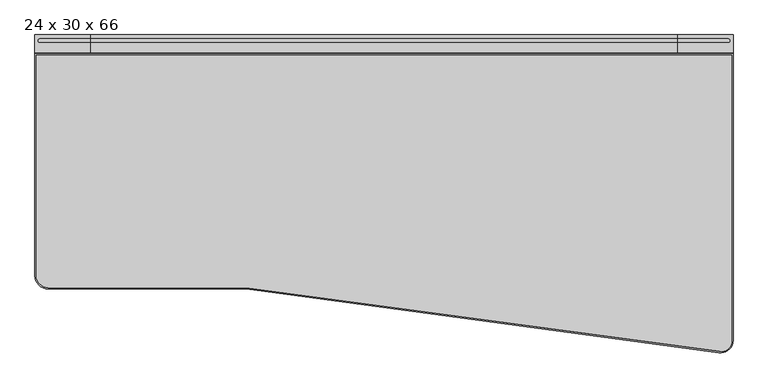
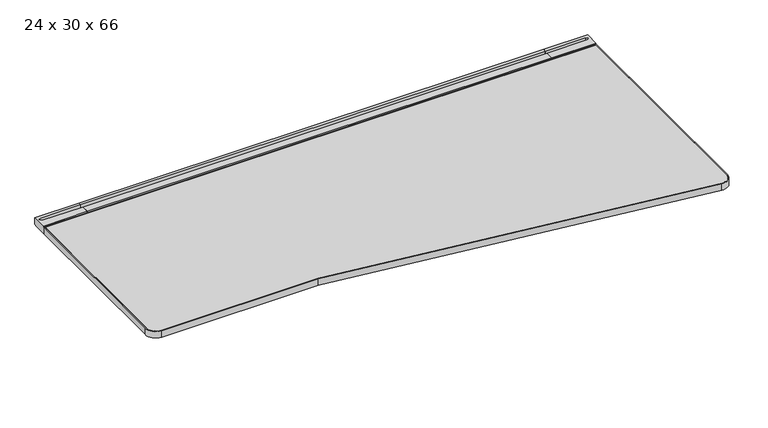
"""IFC4 building model written with IfcOpenShell, lengths in millimetres: furniture geometry, Steelcase - C Scape - Desking - Right Hand Transition : 24 x 30 x 66."""

from ifc_helpers import new_model, si_unit, point, frame, frame_2d, origin, place, context, project, spatial, polyline, circle_curve, trimmed, segment, composite_curve, outline, extrude, faceted_brep, source, transform, mapped, element, save
from ifc_brep_helpers import plane_surface, cylinder_surface, revolved_surface, advanced_brep


def furniture_24_x_30_x_66_a961efd6(model_context):
    return source(origin(), model_context, "Body", "SolidModel", [
        advanced_brep(
        [(1541.7927124, -45.3135132, 703.3768), (1541.7927124, -45.3135132, 722.4268341), (1541.7927124, -42.7750923, 722.4268341), (1541.7927124, -42.7750923, 725.932), (1541.7927124, -19.3290527, 725.932), (1541.7927124, -19.3290527, 713.486), (1541.7927124, -8.5111084, 713.486), (1541.7927124, -8.5111084, 725.932), (1541.7927124, 0.0, 725.932), (1541.7927124, 0.0, 705.1038636), (1541.7927124, -3.2278472, 705.1038636), (1541.7927124, -4.0331902, 703.3768), (1674.8125, -45.3135132, 703.3768), (1674.8125, -4.0331902, 703.3768), (1674.8125, -3.2278472, 705.1038636), (1674.8125, 0.0, 705.1038636), (1674.8125, 0.0, 725.932), (1674.8125, -42.7750923, 725.932), (1674.8125, -42.7750923, 722.4268341), (1674.8125, -45.3135132, 722.4268341), (1663.0504272, -8.5111084, 725.932), (1663.0504272, -19.3290527, 725.932), (1663.0504272, -19.3290527, 713.486), (1663.0504272, -8.5111084, 713.486)],
        [
            (0, 1),
            (1, 2),
            (2, 3),
            (3, 4),
            (4, 5),
            (5, 6),
            (6, 7),
            (7, 8),
            (8, 9),
            (9, 10),
            (10, 11),
            (11, 0),
            (12, 13),
            (13, 14),
            (14, 15),
            (15, 16),
            (16, 17),
            (17, 18),
            (18, 19),
            (19, 12),
            (11, 13),
            (12, 0),
            (10, 14),
            (9, 15),
            (8, 16),
            (7, 20),
            (20, 21, circle_curve(frame((1663.0504272, -13.9200806, 725.932), z_axis=(0.0, 0.0, -1.0), x_axis=(-1.0, 0.0, 0.0)), 5.4089722)),
            (21, 4),
            (3, 17),
            (2, 18),
            (1, 19),
            (5, 22),
            (22, 23, circle_curve(frame((1663.0504272, -13.9200806, 713.486), z_axis=(0.0, 0.0, 1.0), x_axis=(-1.0, 0.0, 0.0)), 5.4089722)),
            (23, 6),
            (23, 20),
            (22, 21),
        ],
        [
            plane_surface(frame((1541.7927124, -45.3135132, 703.3768), z_axis=(-1.0, 0.0, 0.0), x_axis=(0.0, 1.0, 0.0))),
            plane_surface(frame((1674.8125, -45.3135132, 703.3768), z_axis=(1.0, 0.0, 0.0), x_axis=(0.0, -1.0, 0.0))),
            plane_surface(frame((1541.7927124, -45.3135132, 703.3768), z_axis=(0.0, 0.0, -1.0), x_axis=(1.0, 0.0, 0.0))),
            plane_surface(frame((1541.7927124, -4.0331902, 703.3768), z_axis=(0.0, 0.9063077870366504, -0.4226182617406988), x_axis=(1.0, 0.0, 0.0))),
            plane_surface(frame((1541.7927124, -3.2278472, 705.1038636), z_axis=(0.0, 0.0, -1.0), x_axis=(1.0, 0.0, 0.0))),
            plane_surface(frame((1541.7927124, 0.0, 705.1038636), z_axis=(0.0, 1.0, 0.0), x_axis=(1.0, 0.0, 0.0))),
            plane_surface(frame((1541.7927124, 0.0, 725.932), z_axis=(0.0, 0.0, 1.0), x_axis=(1.0, 0.0, 0.0))),
            plane_surface(frame((1541.7927124, -42.7750923, 725.932), z_axis=(0.0, -1.0, 0.0), x_axis=(1.0, 0.0, 0.0))),
            plane_surface(frame((1541.7927124, -42.7750923, 722.4268341), z_axis=(0.0, 0.0, 1.0), x_axis=(1.0, 0.0, 0.0))),
            plane_surface(frame((1541.7927124, -45.3135132, 722.4268341), z_axis=(0.0, -1.0, 0.0), x_axis=(1.0, 0.0, 0.0))),
            plane_surface(frame((1663.0504272, -8.5111084, 713.486), z_axis=(0.0, 0.0, 1.0), x_axis=(-1.0, 0.0, 0.0))),
            plane_surface(frame((1541.7927124, -8.5111084, 731.2180541), z_axis=(0.0, -1.0, 0.0), x_axis=(0.0, 0.0, -1.0))),
            revolved_surface(polyline([(1657.641455, -13.9200806, 725.932), (1657.641455, -13.9200806, 713.486)]), (1663.0504272, -13.9200806, 713.486), (0.0, 0.0, 1.0)),
            plane_surface(frame((1663.0504272, -19.3290527, 731.2180541), z_axis=(0.0, 1.0, 0.0), x_axis=(0.0, 0.0, -1.0))),
        ],
        [
            (0, [[1, 2, 3, 4, 5, 6, 7, 8, 9, 10, 11, 12]]),
            (1, [[13, 14, 15, 16, 17, 18, 19, 20]]),
            (2, [[21, -13, 22, -12]]),
            (3, [[23, -14, -21, -11]]),
            (4, [[24, -15, -23, -10]]),
            (5, [[25, -16, -24, -9]]),
            (6, [[-25, -8, 26, 27, 28, -4, 29, -17]]),
            (7, [[30, -18, -29, -3]]),
            (8, [[31, -19, -30, -2]]),
            (9, [[-22, -20, -31, -1]]),
            (10, [[-6, 32, 33, 34]]),
            (11, [[35, -26, -7, -34]]),
            (12, [[36, -27, -35, -33]]),
            (13, [[-5, -28, -36, -32]]),
        ],
    ),
        faceted_brep([(1655.7617368, -565.0752923, 700.7093833), (1655.7617368, -565.0752923, 703.3768), (1541.7927124, -565.0752923, 703.3768), (1541.7927124, -565.0752923, 679.3263935), (1557.4268699, -565.0752923, 679.3263935), (1560.0474121, -565.0752923, 693.4200291), (1641.4866272, -565.0752923, 693.4200291), (1655.7617368, -4.0331902, 700.7093833), (1641.4866272, -4.0331902, 693.4200291), (1560.0474121, -4.0331902, 693.4200291), (1548.1411653, -4.0331902, 629.3866), (1541.7927124, -4.0331902, 629.3866), (1541.7927124, -4.0331902, 703.3768), (1655.7617368, -4.0331902, 703.3768), (1555.2615949, -376.5599397, 667.6812472), (1548.1411653, -364.1172546, 629.3866), (1541.7927124, -364.1172546, 629.3866), (1541.7927124, -376.5599397, 667.6812472)], [[[0, 1, 2, 3, 4, 5, 6]], [[7, 8, 9, 10, 11, 12, 13]], [[6, 8, 7, 0]], [[5, 9, 8, 6]], [[9, 5, 4, 14, 15, 10]], [[10, 15, 16, 11]], [[11, 16, 17, 3, 2, 12]], [[1, 13, 12, 2]], [[0, 7, 13, 1]], [[14, 4, 3, 17]], [[17, 16, 15, 14]]]),
        extrude(outline(composite_curve([segment(polyline([(-293.5216187, 657.3775839), (-559.0022133, 680.1371551)]), True, "CONTINUOUS"), segment(trimmed(circle_curve(frame_2d((-558.7581271, 682.9843154)), 2.8576039), [point((-559.0022133, 680.1371551))], [point((-561.5383043, 682.3236226))], False, "CARTESIAN"), True, "CONTINUOUS"), segment(polyline([(-561.5383043, 682.3236226), (-566.0887542, 701.4717905), (-557.8334441, 701.4717905), (-557.8334441, 703.3768), (-442.6683806, 703.3768), (-442.6683806, 696.3917953), (-318.2108611, 696.3917953), (-318.2108611, 703.3768), (-293.5216187, 703.3768), (-293.5216187, 657.3775839)]), True, "CONTINUOUS")], self_intersect=False)), frame((801.624, 0.0, 0.0), z_axis=(1.0, 0.0, 0.0), x_axis=(0.0, 1.0, 0.0)), (0.0, 0.0, 1.0), 73.152),
        advanced_brep(
        [(134.6072876, -45.3135132, 703.3768), (134.6072876, -4.0331902, 703.3768), (134.6072876, -3.2278472, 705.1038636), (134.6072876, 0.0, 705.1038636), (134.6072876, 0.0, 725.932), (134.6072876, -8.5111084, 725.932), (134.6072876, -8.5111084, 713.486), (134.6072876, -19.3290527, 713.486), (134.6072876, -19.3290527, 725.932), (134.6072876, -42.7750923, 725.932), (134.6072876, -42.7750923, 722.4268341), (134.6072876, -45.3135132, 722.4268341), (1.5875, -45.3135132, 703.3768), (1.5875, -45.3135132, 722.4268341), (1.5875, -42.7750923, 722.4268341), (1.5875, -42.7750923, 725.932), (1.5875, 0.0, 725.932), (1.5875, 0.0, 705.1038636), (1.5875, -3.2278472, 705.1038636), (1.5875, -4.0331902, 703.3768), (13.3495728, -19.3290527, 725.932), (13.3495728, -8.5111084, 725.932), (13.3495728, -8.5111084, 713.486), (13.3495728, -19.3290527, 713.486)],
        [
            (0, 1),
            (1, 2),
            (2, 3),
            (3, 4),
            (4, 5),
            (5, 6),
            (6, 7),
            (7, 8),
            (8, 9),
            (9, 10),
            (10, 11),
            (11, 0),
            (12, 13),
            (13, 14),
            (14, 15),
            (15, 16),
            (16, 17),
            (17, 18),
            (18, 19),
            (19, 12),
            (0, 12),
            (19, 1),
            (18, 2),
            (17, 3),
            (16, 4),
            (15, 9),
            (8, 20),
            (20, 21, circle_curve(frame((13.3495728, -13.9200806, 725.932), z_axis=(0.0, 0.0, -1.0), x_axis=(1.0, 0.0, 0.0)), 5.4089722)),
            (21, 5),
            (14, 10),
            (13, 11),
            (6, 22),
            (22, 23, circle_curve(frame((13.3495728, -13.9200806, 713.486), z_axis=(0.0, 0.0, 1.0), x_axis=(1.0, 0.0, 0.0)), 5.4089722)),
            (23, 7),
            (21, 22),
            (20, 23),
        ],
        [
            plane_surface(frame((134.6072876, -45.3135132, 703.3768), z_axis=(1.0, 0.0, 0.0), x_axis=(0.0, 1.0, 0.0))),
            plane_surface(frame((1.5875, -45.3135132, 703.3768), z_axis=(-1.0, 0.0, 0.0), x_axis=(0.0, -1.0, 0.0))),
            plane_surface(frame((134.6072876, -45.3135132, 703.3768), z_axis=(0.0, 0.0, -1.0), x_axis=(-1.0, 0.0, 0.0))),
            plane_surface(frame((134.6072876, -4.0331902, 703.3768), z_axis=(0.0, 0.9063077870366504, -0.4226182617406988), x_axis=(-1.0, 0.0, 0.0))),
            plane_surface(frame((134.6072876, -3.2278472, 705.1038636), z_axis=(0.0, 0.0, -1.0), x_axis=(-1.0, 0.0, 0.0))),
            plane_surface(frame((134.6072876, 0.0, 705.1038636), z_axis=(0.0, 1.0, 0.0), x_axis=(-1.0, 0.0, 0.0))),
            plane_surface(frame((134.6072876, 0.0, 725.932), z_axis=(0.0, 0.0, 1.0), x_axis=(-1.0, 0.0, 0.0))),
            plane_surface(frame((134.6072876, -42.7750923, 725.932), z_axis=(0.0, -1.0, 0.0), x_axis=(-1.0, 0.0, 0.0))),
            plane_surface(frame((134.6072876, -42.7750923, 722.4268341), z_axis=(0.0, 0.0, 1.0), x_axis=(-1.0, 0.0, 0.0))),
            plane_surface(frame((134.6072876, -45.3135132, 722.4268341), z_axis=(0.0, -1.0, 0.0), x_axis=(-1.0, 0.0, 0.0))),
            plane_surface(frame((13.3495728, -8.5111084, 713.486), z_axis=(0.0, 0.0, 1.0), x_axis=(1.0, 0.0, 0.0))),
            plane_surface(frame((134.6072876, -8.5111084, 731.2180541), z_axis=(0.0, -1.0, 0.0), x_axis=(0.0, 0.0, -1.0))),
            revolved_surface(polyline([(18.758545, -13.9200806, 725.932), (18.758545, -13.9200806, 713.486)]), (13.3495728, -13.9200806, 713.486), (0.0, 0.0, 1.0)),
            plane_surface(frame((13.3495728, -19.3290527, 731.2180541), z_axis=(0.0, 1.0, 0.0), x_axis=(0.0, 0.0, -1.0))),
        ],
        [
            (0, [[1, 2, 3, 4, 5, 6, 7, 8, 9, 10, 11, 12]]),
            (1, [[13, 14, 15, 16, 17, 18, 19, 20]]),
            (2, [[-1, 21, -20, 22]]),
            (3, [[-2, -22, -19, 23]]),
            (4, [[-3, -23, -18, 24]]),
            (5, [[-4, -24, -17, 25]]),
            (6, [[-16, 26, -9, 27, 28, 29, -5, -25]]),
            (7, [[-10, -26, -15, 30]]),
            (8, [[-11, -30, -14, 31]]),
            (9, [[-12, -31, -13, -21]]),
            (10, [[32, 33, 34, -7]]),
            (11, [[-32, -6, -29, 35]]),
            (12, [[-33, -35, -28, 36]]),
            (13, [[-34, -36, -27, -8]]),
        ],
    ),
        faceted_brep([(20.6382632, -565.0752923, 700.7093833), (34.9133728, -565.0752923, 693.4200291), (116.3525879, -565.0752923, 693.4200291), (118.9731301, -565.0752923, 679.3263935), (134.6072876, -565.0752923, 679.3263935), (134.6072876, -565.0752923, 703.3768), (20.6382632, -565.0752923, 703.3768), (20.6382632, -4.0331902, 700.7093833), (20.6382632, -4.0331902, 703.3768), (134.6072876, -4.0331902, 703.3768), (134.6072876, -4.0331902, 629.3866), (128.2588347, -4.0331902, 629.3866), (116.3525879, -4.0331902, 693.4200291), (34.9133728, -4.0331902, 693.4200291), (128.2588347, -364.1172546, 629.3866), (121.1384051, -376.5599397, 667.6812472), (134.6072876, -364.1172546, 629.3866), (134.6072876, -376.5599397, 667.6812472)], [[[0, 1, 2, 3, 4, 5, 6]], [[7, 8, 9, 10, 11, 12, 13]], [[1, 0, 7, 13]], [[2, 1, 13, 12]], [[12, 11, 14, 15, 3, 2]], [[11, 10, 16, 14]], [[10, 9, 5, 4, 17, 16]], [[6, 5, 9, 8]], [[0, 6, 8, 7]], [[15, 17, 4, 3]], [[17, 15, 14, 16]]]),
        extrude(outline(polyline([(-8.5111084, 725.932), (0.0, 725.932), (0.0, 705.1038636), (-3.2278472, 705.1038636), (-4.0331902, 703.3768), (-45.3135132, 703.3768), (-45.3135132, 722.4268341), (-42.7750923, 722.4268341), (-42.7750923, 725.932), (-19.3290527, 725.932), (-19.3290527, 713.486), (-8.5111084, 713.486), (-8.5111084, 725.932)])), frame((134.6072876, 0.0, 0.0), z_axis=(1.0, 0.0, 0.0), x_axis=(0.0, 1.0, 0.0)), (0.0, 0.0, 1.0), 1407.1854248),
        extrude(outline(polyline([(134.6072876, -293.5216187), (134.6072876, -4.0331902), (1541.7927124, -4.0331902), (1541.7927124, -293.5216187), (134.6072876, -293.5216187)])), frame((0.0, 0.0, 629.3866), z_axis=(0.0, 0.0, 1.0), x_axis=(1.0, 0.0, 0.0)), (0.0, 0.0, 1.0), 73.9902),
        advanced_brep(
        [(4.6355, -48.3660689, 723.9), (4.6355, -577.85, 723.9), (33.3375, -606.5490234, 723.9), (508.0002405, -606.5490234, 723.9), (1642.4488255, -759.7737122, 723.9), (1671.7645, -734.677348, 723.9), (1671.7645, -48.3660689, 723.9), (4.6355, -48.3660689, 703.3768), (1671.7645, -48.3660689, 703.3768), (1671.7645, -734.677348, 703.3768), (1642.4488255, -759.7737122, 703.3768), (508.0002405, -606.5490234, 703.3768), (33.3375, -606.5490234, 703.3768), (4.6384766, -577.85, 703.3768)],
        [
            (0, 1),
            (1, 2, circle_curve(frame((33.3375, -577.85, 723.9), z_axis=(0.0, 0.0, 1.0), x_axis=(1.0, 0.0, 0.0)), 28.6990234)),
            (2, 3),
            (3, 4),
            (4, 5, circle_curve(frame((1646.3645, -734.677348, 723.9), z_axis=(0.0, 0.0, 1.0), x_axis=(1.0, 0.0, 0.0)), 25.4)),
            (5, 6),
            (6, 0),
            (7, 8),
            (8, 9),
            (9, 10, circle_curve(frame((1646.3645, -734.677348, 703.3768), z_axis=(0.0, 0.0, -1.0), x_axis=(1.0, 0.0, 0.0)), 25.4)),
            (10, 11),
            (11, 12),
            (12, 13, circle_curve(frame((33.3375, -577.85, 703.3768), z_axis=(0.0, 0.0, -1.0), x_axis=(1.0, 0.0, 0.0)), 28.6990234)),
            (13, 7),
            (0, 7),
            (13, 1),
            (12, 2),
            (11, 3),
            (10, 4),
            (9, 5),
            (8, 6),
        ],
        [
            plane_surface(frame((4.6355, -48.3660689, 723.9), z_axis=(0.0, 0.0, 1.0), x_axis=(0.0, -1.0, 0.0))),
            plane_surface(frame((4.6355, -48.3660689, 703.3768), z_axis=(0.0, 0.0, -1.0), x_axis=(0.0, 1.0, 0.0))),
            plane_surface(frame((4.6355, -48.3660689, 723.9), z_axis=(-1.0, 0.0, 0.0), x_axis=(0.0, 0.0, -1.0))),
            cylinder_surface(frame((33.3375, -577.85, 703.3768), z_axis=(0.0, 0.0, 1.0), x_axis=(1.0, 0.0, 0.0)), 28.6990234),
            plane_surface(frame((33.3375, -606.5490234, 723.9), z_axis=(0.0, -1.0, 0.0), x_axis=(0.0, 0.0, -1.0))),
            plane_surface(frame((508.0002405, -606.5490234, 723.9), z_axis=(-0.13384997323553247, -0.9910016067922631, 0.0), x_axis=(0.0, 0.0, -1.0))),
            cylinder_surface(frame((1646.3645, -734.677348, 703.3768), z_axis=(0.0, 0.0, 1.0), x_axis=(1.0, 0.0, 0.0)), 25.4),
            plane_surface(frame((1671.7645, -734.677348, 723.9), z_axis=(1.0, 0.0, 0.0), x_axis=(0.0, 0.0, -1.0))),
            plane_surface(frame((1671.7645, -48.3660689, 723.9), z_axis=(0.0, 1.0, 0.0), x_axis=(0.0, 0.0, -1.0))),
        ],
        [
            (0, [[1, 2, 3, 4, 5, 6, 7]]),
            (1, [[8, 9, 10, 11, 12, 13, 14]]),
            (2, [[-1, 15, -14, 16]]),
            (3, [[-2, -16, -13, 17]]),
            (4, [[-3, -17, -12, 18]]),
            (5, [[-4, -18, -11, 19]]),
            (6, [[-5, -19, -10, 20]]),
            (7, [[-6, -20, -9, 21]]),
            (8, [[-7, -21, -8, -15]]),
        ],
    ),
        advanced_brep(
        [(1674.8125, -45.3150923, 703.3768), (1674.8125, -45.3150923, 723.9), (1674.8125, -733.2875177, 723.9), (1674.8125, -733.2875177, 703.3768), (1671.7615234, -48.3660689, 723.9), (1671.7615234, -48.3660689, 703.3768), (1671.7615234, -733.2875177, 703.3768), (1671.7615234, -733.2875177, 723.9), (1640.6391868, -762.5423763, 703.3768), (1640.6391868, -762.5423763, 723.9), (1641.1095266, -759.5278717, 723.9), (1641.1095266, -759.5278717, 703.3768), (508.0, -609.6, 723.9), (1.5875, -45.3150923, 723.9), (1.5875, -577.85, 723.9), (33.3375, -609.6, 723.9), (508.205059, -606.5490234, 723.9), (33.3375, -606.5490234, 723.9), (4.6384766, -577.85, 723.9), (4.6384766, -48.3660689, 723.9), (508.0, -609.6, 703.3768), (33.3375, -609.6, 703.3768), (1.5875, -577.85, 703.3768), (1.5875, -45.3150923, 703.3768), (508.205059, -606.5490234, 703.3768), (4.6384766, -48.3660689, 703.3768), (4.6384766, -577.85, 703.3768), (33.3375, -606.5490234, 703.3768)],
        [
            (0, 1),
            (1, 2),
            (2, 3),
            (3, 0),
            (4, 5),
            (5, 6),
            (6, 7),
            (7, 4),
            (8, 3, circle_curve(frame((1645.2036927, -733.2875177, 703.3768), z_axis=(0.0, 0.0, 1.0), x_axis=(1.0, 0.0, 0.0)), 29.6088073)),
            (2, 9, circle_curve(frame((1645.2036927, -733.2875177, 723.9), z_axis=(0.0, 0.0, -1.0), x_axis=(1.0, 0.0, 0.0)), 29.6088073)),
            (9, 8),
            (10, 7, circle_curve(frame((1645.2036927, -733.2875177, 723.9), z_axis=(0.0, 0.0, 1.0), x_axis=(1.0, 0.0, 0.0)), 26.5578307)),
            (6, 11, circle_curve(frame((1645.2036927, -733.2875177, 703.3768), z_axis=(0.0, 0.0, -1.0), x_axis=(1.0, 0.0, 0.0)), 26.5578307)),
            (11, 10),
            (12, 9),
            (1, 13),
            (13, 14),
            (14, 15, circle_curve(frame((33.3375, -577.85, 723.9), z_axis=(0.0, 0.0, 1.0), x_axis=(0.0, -1.0, 0.0)), 31.75)),
            (15, 12),
            (10, 16),
            (16, 17),
            (17, 18, circle_curve(frame((33.3375, -577.85, 723.9), z_axis=(0.0, 0.0, -1.0), x_axis=(0.0, -1.0, 0.0)), 28.6990234)),
            (18, 19),
            (19, 4),
            (12, 20),
            (20, 8),
            (20, 21),
            (21, 22, circle_curve(frame((33.3375, -577.85, 703.3768), z_axis=(0.0, 0.0, -1.0), x_axis=(0.0, -1.0, 0.0)), 31.75)),
            (22, 23),
            (23, 0),
            (24, 11),
            (5, 25),
            (25, 26),
            (26, 27, circle_curve(frame((33.3375, -577.85, 703.3768), z_axis=(0.0, 0.0, 1.0), x_axis=(0.0, -1.0, 0.0)), 28.6990234)),
            (27, 24),
            (24, 16),
            (15, 21),
            (27, 17),
            (14, 22),
            (26, 18),
            (13, 23),
            (25, 19),
        ],
        [
            plane_surface(frame((1674.8125, -45.3150923, 723.9), z_axis=(1.0, 0.0, 0.0), x_axis=(0.0, -1.0, 0.0))),
            plane_surface(frame((1671.7615234, -48.3660689, 703.3768), z_axis=(-1.0, 0.0, 0.0), x_axis=(0.0, -1.0, 0.0))),
            cylinder_surface(frame((1645.2036927, -733.2875177, 0.0), z_axis=(0.0, 0.0, -1.0), x_axis=(1.0, 0.0, 0.0)), 29.6088073),
            revolved_surface(polyline([(1671.7615234, -733.2875177, 703.3768), (1671.7615234, -733.2875177, 723.9)]), (1645.2036927, -733.2875177, 0.0), (0.0, 0.0, -1.0)),
            plane_surface(frame((1641.109626, -759.5272346, 723.9), z_axis=(0.0, 0.0, 1.0), x_axis=(-0.9910060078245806, 0.1338173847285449, 0.0))),
            plane_surface(frame((1640.6391868, -762.5423763, 723.9), z_axis=(-0.13381738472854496, -0.9910060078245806, 0.0), x_axis=(-0.9910060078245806, 0.13381738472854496, 0.0))),
            plane_surface(frame((1640.6391868, -762.5423763, 703.3768), z_axis=(0.0, 0.0, -1.0000000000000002), x_axis=(-0.9910060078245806, 0.13381738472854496, 0.0))),
            plane_surface(frame((1641.109626, -759.5272346, 703.3768), z_axis=(0.13381738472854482, 0.9910060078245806, 0.0), x_axis=(-0.9910060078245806, 0.13381738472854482, 0.0))),
            plane_surface(frame((508.0, -609.6, 723.9), z_axis=(0.0, -1.0, 0.0), x_axis=(-1.0, 0.0, 0.0))),
            plane_surface(frame((508.205059, -606.5490234, 703.3768), z_axis=(0.0, 1.0, 0.0), x_axis=(-1.0, 0.0, 0.0))),
            cylinder_surface(frame((33.3375, -577.85, 0.0), z_axis=(0.0, 0.0, -1.0), x_axis=(0.0, -1.0, 0.0)), 31.75),
            revolved_surface(polyline([(33.3375, -606.5490234, 703.3768), (33.3375, -606.5490234, 723.9)]), (33.3375, -577.85, 0.0), (0.0, 0.0, -1.0)),
            plane_surface(frame((1.5875, -577.85, 723.9), z_axis=(-1.0, 0.0, 0.0), x_axis=(0.0, 1.0, 0.0))),
            plane_surface(frame((4.6384766, -577.85, 703.3768), z_axis=(1.0, 0.0, 0.0), x_axis=(0.0, 1.0, 0.0))),
            plane_surface(frame((1.5875, -45.3150923, 723.9), z_axis=(0.0, 1.0, 0.0), x_axis=(1.0, 0.0, 0.0))),
            plane_surface(frame((4.6384766, -48.3660689, 703.3768), z_axis=(0.0, -1.0, 0.0), x_axis=(1.0, 0.0, 0.0))),
        ],
        [
            (0, [[1, 2, 3, 4]]),
            (1, [[5, 6, 7, 8]]),
            (2, [[9, -3, 10, 11]]),
            (3, [[12, -7, 13, 14]]),
            (4, [[15, -10, -2, 16, 17, 18, 19], [-8, -12, 20, 21, 22, 23, 24]]),
            (5, [[-11, -15, 25, 26]]),
            (6, [[-4, -9, -26, 27, 28, 29, 30], [31, -13, -6, 32, 33, 34, 35]]),
            (7, [[-14, -31, 36, -20]]),
            (8, [[-25, -19, 37, -27]]),
            (9, [[-36, -35, 38, -21]]),
            (10, [[-28, -37, -18, 39]]),
            (11, [[-22, -38, -34, 40]]),
            (12, [[-39, -17, 41, -29]]),
            (13, [[-40, -33, 42, -23]]),
            (14, [[-41, -16, -1, -30]]),
            (15, [[-42, -32, -5, -24]]),
        ],
    ),
    ])


if __name__ == "__main__":
    model = new_model("IFC4")
    model_context = context("Model", 3, world=origin())
    ifc_project = project(units=[si_unit("LENGTHUNIT", "METRE", prefix="MILLI")], contexts=[model_context])
    site = spatial("IfcSite", under=ifc_project)
    building = spatial("IfcBuilding", under=site)
    placement = place(None, origin())
    furniture_24_x_30_x_66_shape = furniture_24_x_30_x_66_a961efd6(model_context)
    element("IfcFurniture", 1, ObjectType="Steelcase - C Scape - Desking - Right Hand Transition : 24 x 30 x 66", at=placement, inside=building, context=model_context, shape_type="MappedRepresentation", body=[
        mapped(furniture_24_x_30_x_66_shape, transform((0.0, 0.0, 0.0), x_axis=(1.0, 0.0, 0.0), y_axis=(0.0, 1.0, 0.0), z_axis=(0.0, 0.0, 1.0))),
    ])
    save(model, "model.ifc")
